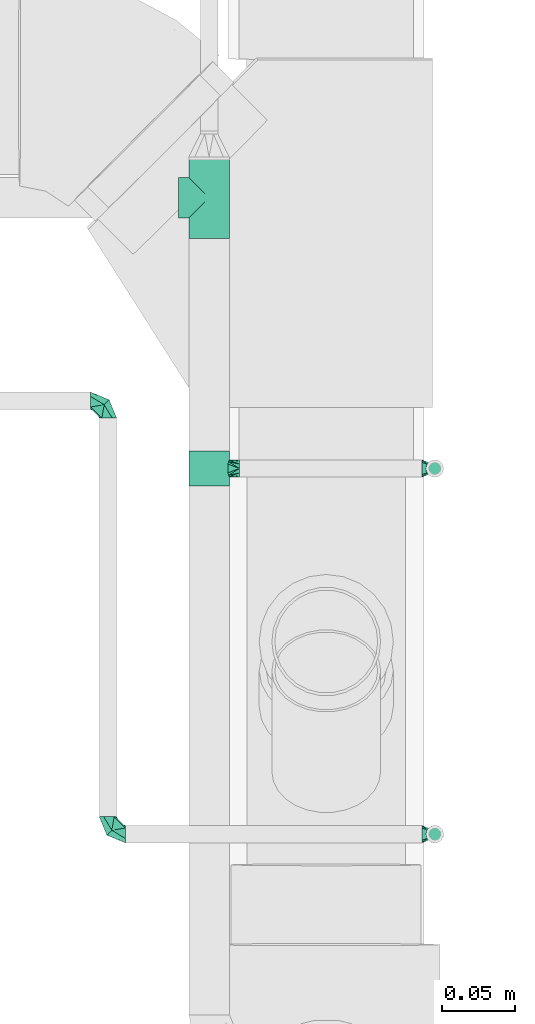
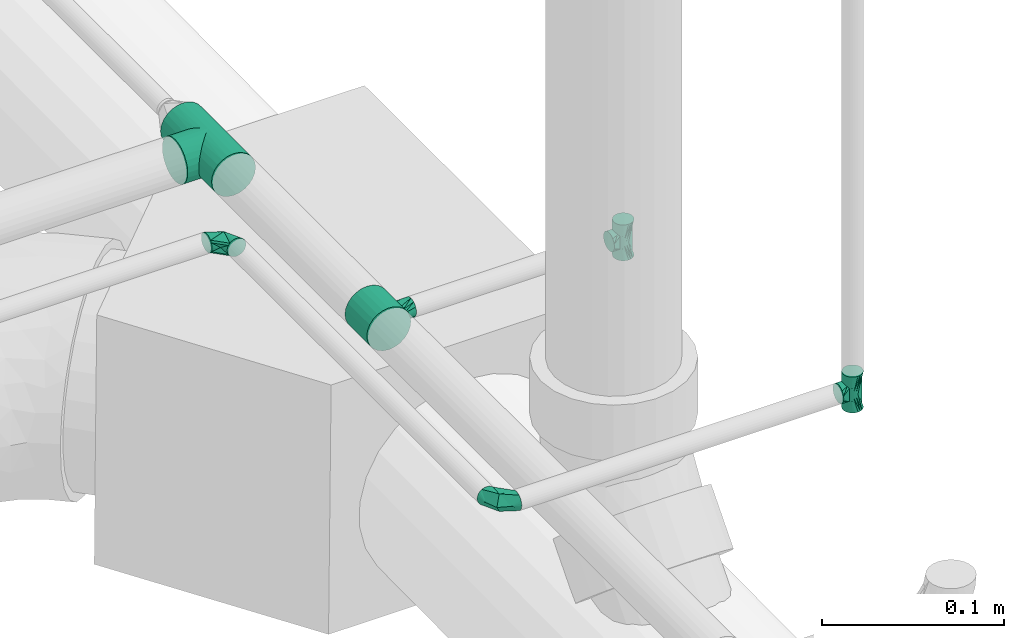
# One storey, part 74 of 108: 6 flow fittings.
"""IFC2X3 building model written with IfcOpenShell, lengths in millimetres."""

from ifc_helpers import new_model, entity, si_unit, converted_unit, derived_unit, direction, frame, origin_with_axes, place, context, subcontext, project, spatial, open_shell, surface_model, source, transform, mapped, type_object, element, save


model = new_model("IFC2X3")

# Units and contexts
model_context = context("Model", 3, precision=0.01, world=frame((0.0, 4.29681676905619e-09, 0.0)), true_north=direction((4.01073788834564e-13, 1.0)))
plan_context = context("Plan", 3, precision=0.01, world=frame((0.0, 4.29681676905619e-09, 0.0)), true_north=direction((4.01073788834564e-13, 1.0)))
body_context = subcontext(model_context, "Body", "Model", "MODEL_VIEW")
ifc_project = project(units=[converted_unit("PLANEANGLEUNIT", "DEGREE", entity("IfcPositiveLengthMeasure", 0.0174532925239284), si_unit("PLANEANGLEUNIT", "RADIAN"), dimensions=[0, 0, 0, 0, 0, 0, 0]), si_unit("AREAUNIT", "SQUARE_METRE"), si_unit("LENGTHUNIT", "METRE", prefix="MILLI"), si_unit("MASSUNIT", "GRAM", prefix="KILO"), si_unit("POWERUNIT", "WATT"), si_unit("PRESSUREUNIT", "PASCAL", prefix="KILO"), si_unit("FORCEUNIT", "NEWTON", prefix="KILO"), si_unit("ELECTRICVOLTAGEUNIT", "VOLT"), si_unit("ELECTRICCURRENTUNIT", "AMPERE"), si_unit("THERMODYNAMICTEMPERATUREUNIT", "DEGREE_CELSIUS"), si_unit("TIMEUNIT", "SECOND"), si_unit("VOLUMEUNIT", "CUBIC_METRE"), derived_unit("LINEARVELOCITYUNIT", [(si_unit("LENGTHUNIT", "METRE"), 1), (si_unit("TIMEUNIT", "SECOND"), -1)]), derived_unit("VOLUMETRICFLOWRATEUNIT", [(si_unit("VOLUMEUNIT", "CUBIC_METRE"), 1), (si_unit("TIMEUNIT", "SECOND"), -1)]), derived_unit("THERMALTRANSMITTANCEUNIT", [(si_unit("POWERUNIT", "WATT"), 1), (si_unit("THERMODYNAMICTEMPERATUREUNIT", "KELVIN"), -1), (si_unit("AREAUNIT", "SQUARE_METRE"), -1)]), derived_unit("SOUNDPRESSUREUNIT", [(si_unit("PRESSUREUNIT", "PASCAL"), 1)])], contexts=[model_context, plan_context])

# Site, building, storey
site_placement = place(None, frame((0.0, -4.29681676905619e-09, 0.0), z_axis=(0.0, 0.0, 1.0), x_axis=(1.0, 0.0, 0.0)))
site = spatial("IfcSite", under=ifc_project, at=site_placement, CompositionType="ELEMENT")
building_placement = place(site_placement, frame((0.0, 4.29681676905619e-09, 0.0), z_axis=(0.0, 0.0, 1.0), x_axis=(1.0, 0.0, 0.0)))
building = spatial("IfcBuilding", under=site, at=building_placement, Name="mc-building", CompositionType="ELEMENT")
storey_placement = place(building_placement, frame((0.0, 0.0, 210200.0), z_axis=(0.0, 0.0, 1.0), x_axis=(1.0, 0.0, 0.0)))
storey = spatial("IfcBuildingStorey", under=building, at=storey_placement, Name="Nivå F - 0,7 m", CompositionType="ELEMENT", Elevation=210200.0)

# Flow fittings
pipe_fitting_type_1 = type_object("IfcPipeFittingType", Name="magi_pipe_elbow_short_001", PredefinedType="BEND")
shared_shape_1 = source(origin_with_axes(), body_context, "Body", "SurfaceModel", [
    surface_model("IfcShellBasedSurfaceModel", [(-12.0, 0.0, -6.0), (-12.0, -5.19615, -3.0), (-12.0, 1.55291, -5.79555), (-12.0, 5.79555, -1.55291), (-12.0, -5.79555, -1.55291), (-12.0, -6.0, 0.0), (-12.0, -1.55291, 5.79555), (-12.0, 0.0, 6.0), (-12.0, -3.0, 5.19615), (-12.0, 3.0, -5.19615), (-12.0, 5.19615, -3.0), (-12.0, 4.24264, -4.24264), (-12.0, -3.0, -5.19615), (-12.0, -4.24264, -4.24264), (-12.0, -1.55291, -5.79555), (-12.0, 6.0, 0.0), (-12.0, -4.24264, 4.24264), (-12.0, 5.79555, 1.55291), (-12.0, 5.19615, 3.0), (-12.0, 4.24264, 4.24264), (-12.0, 1.55291, 5.79555), (-12.0, 3.0, 5.19615), (-12.0, -5.79555, 1.55291), (-12.0, -5.19615, 3.0), (-1.55291, 12.0, -5.79555), (5.19615, 12.0, -3.0), (0.0, 12.0, -6.0), (-5.79555, 12.0, -1.55291), (-3.0, 12.0, -5.19615), (-4.24264, 12.0, -4.24264), (-5.19615, 12.0, -3.0), (-1.55291, 12.0, 5.79555), (1.55291, 12.0, -5.79555), (4.24264, 12.0, -4.24264), (3.0, 12.0, -5.19615), (6.0, 12.0, 0.0), (5.79555, 12.0, -1.55291), (4.24264, 12.0, 4.24264), (-5.19615, 12.0, 3.0), (-5.79555, 12.0, 1.55291), (-4.24264, 12.0, 4.24264), (-3.0, 12.0, 5.19615), (5.19615, 12.0, 3.0), (5.79555, 12.0, 1.55291), (3.0, 12.0, 5.19615), (0.0, 12.0, 6.0), (1.55291, 12.0, 5.79555), (-6.0, 12.0, 0.0), (-2.67965, 2.67964, 5.88263), (-6.5981, -3.76246, 0.0), (0.72792, -0.72792, 0.0), (3.76246, 6.5981, 0.0), (-7.75736, 7.75736, 0.0), (-2.67964, 2.67964, -5.88263)], [open_shell([[[0, 1, 2]], [[3, 2, 1]], [[4, 5, 1]], [[6, 7, 8]], [[9, 2, 3]], [[3, 10, 11]], [[9, 3, 11]], [[12, 13, 14]], [[1, 14, 13]], [[0, 14, 1]], [[1, 5, 3]], [[5, 15, 3]], [[16, 17, 5]], [[18, 17, 19]], [[20, 21, 19]], [[17, 20, 19]], [[20, 17, 8]], [[5, 22, 23]], [[5, 23, 16]], [[17, 16, 8]], [[20, 8, 7]], [[17, 15, 5]], [[24, 25, 26]], [[27, 24, 28]], [[29, 30, 27]], [[29, 27, 28]], [[31, 25, 24]], [[32, 33, 34]], [[33, 32, 25]], [[25, 35, 36]], [[25, 32, 26]], [[25, 37, 35]], [[38, 24, 27]], [[27, 39, 38]], [[24, 38, 31]], [[40, 41, 31]], [[40, 31, 38]], [[37, 25, 31]], [[35, 42, 43]], [[37, 42, 35]], [[44, 45, 46]], [[44, 37, 31]], [[45, 44, 31]], [[27, 47, 39]], [[6, 48, 7]], [[23, 22, 49]], [[16, 23, 49]], [[22, 5, 49]], [[50, 51, 48]], [[8, 49, 48]], [[20, 7, 48]], [[8, 48, 6]], [[42, 51, 43]], [[16, 49, 8]], [[18, 19, 38]], [[48, 19, 21]], [[17, 18, 52]], [[52, 15, 17]], [[52, 18, 38]], [[21, 20, 48]], [[49, 50, 48]], [[44, 46, 48]], [[51, 44, 48]], [[46, 45, 48]], [[35, 43, 51]], [[44, 51, 37]], [[37, 51, 42]], [[38, 39, 52]], [[47, 52, 39]], [[41, 40, 48]], [[40, 19, 48]], [[38, 19, 40]], [[31, 41, 48]], [[45, 31, 48]], [[9, 53, 2]], [[2, 53, 0]], [[52, 10, 3]], [[50, 49, 53]], [[11, 29, 53]], [[1, 49, 4]], [[11, 10, 29]], [[9, 11, 53]], [[49, 5, 4]], [[1, 13, 49]], [[14, 53, 12]], [[49, 13, 12]], [[12, 53, 49]], [[0, 53, 14]], [[3, 15, 52]], [[52, 47, 27]], [[52, 27, 30]], [[29, 10, 30]], [[32, 53, 26]], [[53, 28, 24]], [[36, 35, 51]], [[53, 29, 28]], [[26, 53, 24]], [[53, 34, 51]], [[51, 34, 33]], [[25, 36, 51]], [[51, 50, 53]], [[51, 33, 25]], [[34, 53, 32]], [[30, 10, 52]]])]),
])
for number, where, z_axis, x_axis, name in (
    (1, (328756.00629, 463310.0, 3284.41390000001), (0.0, 0.0, 1.0), (0.0, 1.0, 0.0), "magi_pipe_elbow_short_001"),
    (2, (328756.00629, 463011.2286, 3284.41390000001), (0.0, 0.0, 1.0), (0.0, -1.0, 0.0), "magi_pipe_elbow_short_001"),
):
    element("IfcFlowFitting", number, at=place(storey_placement, frame(where, z_axis=z_axis, x_axis=x_axis)), inside=storey, type_object=pipe_fitting_type_1, Name=name, context=body_context, shape_type="MappedRepresentation", body=[
        mapped(shared_shape_1, transform((0.0, 0.0, 0.0), scale=1.0)),
    ])
pipe_fitting_type_2 = type_object("IfcPipeFittingType", Name="magi_pipe_tee_centric_90_001", PredefinedType="JUNCTION")
shared_shape_2 = source(origin_with_axes(), body_context, "Body", "SurfaceModel", [
    surface_model("IfcShellBasedSurfaceModel", [(-28.0, 7.0, -12.12436), (-28.0, 3.62347, -13.52296), (-28.0, 9.89949, -9.89949), (-28.0, -7.0, -12.12436), (-28.0, -9.89949, -9.89949), (-28.0, -3.62347, -13.52296), (-28.0, 0.0, -14.0), (-28.0, 13.52296, -3.62347), (-28.0, 12.12436, -7.0), (-28.0, -12.12436, -7.0), (-28.0, -13.52296, -3.62347), (-28.0, -14.0, 0.0), (-28.0, 14.0, 0.0), (-28.0, 12.12436, 7.0), (-28.0, 13.52296, 3.62347), (-28.0, 7.0, 12.12436), (-28.0, 3.62347, 13.52296), (-28.0, 9.89949, 9.89949), (-28.0, 0.0, 14.0), (-28.0, -13.52296, 3.62347), (-28.0, -12.12436, 7.0), (-28.0, -9.89949, 9.89949), (-28.0, -7.0, 12.12436), (-28.0, -3.62347, 13.52296), (28.0, 9.89949, -9.89949), (28.0, 0.0, -14.0), (28.0, 3.62347, -13.52296), (28.0, 7.0, -12.12436), (28.0, 12.12436, -7.0), (28.0, 13.52296, -3.62347), (28.0, -12.12436, -7.0), (28.0, -3.62347, -13.52296), (28.0, -9.89949, -9.89949), (28.0, -7.0, -12.12436), (28.0, -14.0, 0.0), (28.0, -13.52296, -3.62347), (28.0, 7.0, 12.12436), (28.0, 14.0, 0.0), (28.0, 13.52296, 3.62347), (28.0, 12.12436, 7.0), (28.0, 3.62347, 13.52296), (28.0, 9.89949, 9.89949), (28.0, 0.0, 14.0), (28.0, -12.12436, 7.0), (28.0, -13.52296, 3.62347), (28.0, -9.89949, 9.89949), (28.0, -3.62347, 13.52296), (28.0, -7.0, 12.12436), (13.49217, -13.49217, 3.73648), (14.0, -14.0, 0.0), (12.11708, -12.11708, 7.01259), (7.84674, -7.84674, 11.59434), (10.15905, -10.15905, 9.63294), (-14.0, -14.0, 0.0), (-13.49217, -13.49217, 3.73648), (-12.11708, -12.11708, 7.01259), (-10.15905, -10.15905, 9.63294), (-7.84674, -7.84674, 11.59434), (-5.32575, -5.32575, 12.94745), (5.32575, -5.32575, 12.94745), (2.68835, -2.68835, 13.73946), (0.0, 0.0, 14.0), (-2.68835, -2.68835, 13.73946), (2.68835, -2.68835, -13.73946), (0.0, 0.0, -14.0), (-2.68835, -2.68835, -13.73946), (-5.32575, -5.32575, -12.94745), (5.32575, -5.32575, -12.94745), (7.84674, -7.84674, -11.59434), (10.15905, -10.15905, -9.63294), (12.11708, -12.11708, -7.01259), (13.49217, -13.49217, -3.73648), (-7.84674, -7.84674, -11.59434), (-10.15905, -10.15905, -9.63294), (-13.49217, -13.49217, -3.73648), (-12.11708, -12.11708, -7.01259), (9.89949, -21.0, -9.89949), (0.0, -21.0, -14.0), (3.62347, -21.0, -13.52296), (7.0, -21.0, -12.12436), (12.12436, -21.0, -7.0), (13.52296, -21.0, -3.62347), (-12.12436, -21.0, -7.0), (-14.0, -21.0, 0.0), (-3.62347, -21.0, -13.52296), (-9.89949, -21.0, -9.89949), (-7.0, -21.0, -12.12436), (-13.52296, -21.0, -3.62347), (-13.52296, -21.0, 3.62347), (14.0, -21.0, 0.0), (13.52296, -21.0, 3.62347), (12.12436, -21.0, 7.0), (-9.89949, -21.0, 9.89949), (7.0, -21.0, 12.12436), (0.0, -21.0, 14.0), (9.89949, -21.0, 9.89949), (3.62347, -21.0, 13.52296), (-12.12436, -21.0, 7.0), (-3.62347, -21.0, 13.52296), (-7.0, -21.0, 12.12436)], [open_shell([[[0, 1, 2]], [[3, 4, 5]], [[1, 6, 2]], [[6, 7, 8]], [[2, 6, 8]], [[9, 7, 6]], [[9, 5, 4]], [[10, 11, 9]], [[6, 5, 9]], [[9, 11, 7]], [[11, 12, 7]], [[13, 14, 12]], [[15, 13, 12]], [[15, 11, 16]], [[17, 13, 15]], [[11, 18, 16]], [[19, 20, 11]], [[20, 21, 11]], [[22, 23, 21]], [[18, 21, 23]], [[11, 21, 18]], [[11, 15, 12]], [[24, 25, 26]], [[24, 26, 27]], [[28, 29, 25]], [[28, 25, 24]], [[25, 29, 30]], [[31, 32, 33]], [[32, 31, 30]], [[30, 34, 35]], [[30, 31, 25]], [[30, 36, 34]], [[30, 29, 37]], [[37, 38, 39]], [[39, 36, 30]], [[40, 34, 36]], [[36, 39, 41]], [[34, 40, 42]], [[34, 43, 44]], [[34, 45, 43]], [[45, 46, 47]], [[46, 45, 42]], [[42, 45, 34]], [[39, 30, 37]], [[44, 43, 48]], [[34, 44, 49]], [[49, 44, 48]], [[43, 50, 48]], [[45, 47, 51]], [[50, 43, 52]], [[51, 52, 45]], [[52, 43, 45]], [[53, 54, 19]], [[53, 19, 11]], [[19, 54, 20]], [[54, 55, 20]], [[56, 57, 21]], [[21, 20, 56]], [[21, 57, 22]], [[56, 20, 55]], [[22, 57, 58]], [[51, 47, 59]], [[60, 42, 61]], [[59, 46, 60]], [[46, 59, 47]], [[60, 46, 42]], [[61, 42, 40]], [[39, 38, 14]], [[17, 36, 41]], [[13, 41, 39]], [[40, 36, 15]], [[12, 38, 37]], [[62, 61, 18]], [[62, 23, 58]], [[23, 62, 18]], [[58, 23, 22]], [[61, 16, 18]], [[40, 16, 61]], [[15, 16, 40]], [[15, 36, 17]], [[13, 17, 41]], [[14, 13, 39]], [[38, 12, 14]], [[8, 28, 24]], [[12, 37, 29]], [[24, 27, 0]], [[28, 7, 29]], [[25, 31, 63]], [[25, 64, 26]], [[64, 25, 63]], [[27, 26, 1]], [[64, 1, 26]], [[8, 24, 2]], [[7, 28, 8]], [[24, 0, 2]], [[7, 12, 29]], [[65, 66, 5]], [[6, 1, 64]], [[6, 65, 5]], [[66, 3, 5]], [[1, 0, 27]], [[6, 64, 65]], [[63, 31, 67]], [[33, 32, 68]], [[69, 68, 32]], [[30, 70, 69]], [[69, 32, 30]], [[33, 68, 67]], [[35, 34, 49]], [[35, 71, 30]], [[71, 35, 49]], [[30, 71, 70]], [[72, 3, 66]], [[72, 4, 3]], [[4, 72, 73]], [[4, 73, 9]], [[74, 53, 10]], [[75, 74, 9]], [[74, 10, 9]], [[10, 53, 11]], [[75, 9, 73]], [[33, 67, 31]], [[76, 77, 78]], [[76, 78, 79]], [[76, 80, 81]], [[77, 76, 82]], [[83, 76, 81]], [[84, 85, 86]], [[85, 84, 82]], [[82, 83, 87]], [[82, 84, 77]], [[76, 83, 82]], [[81, 88, 83]], [[89, 90, 91]], [[92, 89, 91]], [[91, 93, 94]], [[93, 91, 95]], [[96, 94, 93]], [[88, 92, 97]], [[88, 89, 92]], [[92, 98, 99]], [[98, 92, 94]], [[91, 94, 92]], [[89, 88, 81]], [[88, 53, 83]], [[97, 54, 88]], [[57, 92, 99]], [[99, 98, 58]], [[97, 92, 56]], [[94, 62, 98]], [[54, 53, 88]], [[55, 54, 97]], [[57, 56, 92]], [[62, 58, 98]], [[57, 99, 58]], [[55, 97, 56]], [[94, 61, 62]], [[51, 93, 95]], [[59, 96, 93]], [[90, 89, 49]], [[95, 91, 52]], [[90, 48, 91]], [[48, 90, 49]], [[61, 94, 60]], [[59, 60, 96]], [[48, 50, 91]], [[52, 51, 95]], [[50, 52, 91]], [[59, 93, 51]], [[60, 94, 96]], [[81, 49, 89]], [[80, 71, 81]], [[68, 76, 79]], [[79, 78, 67]], [[80, 76, 69]], [[77, 63, 78]], [[71, 49, 81]], [[70, 71, 80]], [[68, 69, 76]], [[63, 67, 78]], [[68, 79, 67]], [[70, 80, 69]], [[77, 64, 63]], [[86, 66, 84]], [[85, 72, 86]], [[87, 83, 53]], [[85, 82, 73]], [[87, 74, 82]], [[74, 87, 53]], [[64, 77, 65]], [[66, 65, 84]], [[74, 75, 82]], [[73, 72, 85]], [[75, 73, 82]], [[66, 86, 72]], [[65, 77, 84]]])]),
])
flow_fitting_1_placement = place(storey_placement, frame((328825.72018, 463450.0, 3233.60013000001), z_axis=(0.0, 0.0, -1.0), x_axis=(0.0, 1.0, 0.0)))
element("IfcFlowFitting", 3, at=flow_fitting_1_placement, inside=storey, type_object=pipe_fitting_type_2, Name="magi_pipe_tee_centric_90_001", context=body_context, shape_type="MappedRepresentation", body=[
    mapped(shared_shape_2, transform((0.0, 0.0, 0.0), scale=1.0)),
])
shared_shape_3 = source(origin_with_axes(), body_context, "Body", "SurfaceModel", [
    surface_model("IfcShellBasedSurfaceModel", [(-12.0, 3.62347, -13.52296), (-12.0, 0.0, -14.0), (-12.0, 9.89949, -9.89949), (-12.0, 7.0, -12.12436), (-12.0, 13.52296, -3.62347), (-12.0, 12.12436, -7.0), (-12.0, -12.12436, -7.0), (-12.0, -7.0, -12.12436), (-12.0, -9.89949, -9.89949), (-12.0, -3.62347, -13.52296), (-12.0, -13.52296, -3.62347), (-12.0, -14.0, 0.0), (-12.0, 14.0, 0.0), (-12.0, 12.12436, 7.0), (-12.0, 13.52296, 3.62347), (-12.0, 7.0, 12.12436), (-12.0, 3.62347, 13.52296), (-12.0, 9.89949, 9.89949), (-12.0, 0.0, 14.0), (-12.0, -13.52296, 3.62347), (-12.0, -12.12436, 7.0), (-12.0, -9.89949, 9.89949), (-12.0, -7.0, 12.12436), (-12.0, -3.62347, 13.52296), (12.0, 9.89949, -9.89949), (12.0, 0.0, -14.0), (12.0, 3.62347, -13.52296), (12.0, 7.0, -12.12436), (12.0, 12.12436, -7.0), (12.0, 13.52296, -3.62347), (12.0, -12.12436, -7.0), (12.0, -3.62347, -13.52296), (12.0, -9.89949, -9.89949), (12.0, -7.0, -12.12436), (12.0, -14.0, 0.0), (12.0, -13.52296, -3.62347), (12.0, 7.0, 12.12436), (12.0, 14.0, 0.0), (12.0, 13.52296, 3.62347), (12.0, 12.12436, 7.0), (12.0, 3.62347, 13.52296), (12.0, 9.89949, 9.89949), (12.0, 0.0, 14.0), (12.0, -12.12436, 7.0), (12.0, -13.52296, 3.62347), (12.0, -9.89949, 9.89949), (12.0, -3.62347, 13.52296), (12.0, -7.0, 12.12436), (12.0, -13.76148, 1.81173), (5.63156, -13.8461, 2.07016), (6.0, -14.0, 0.0), (4.5901, -13.45619, 3.86406), (1.05264, -12.69283, 5.90694), (3.01298, -13.003, 5.18864), (-5.63173, -13.84617, 2.06969), (-12.0, -13.76148, 1.81173), (-6.0, -14.0, 0.0), (-4.59169, -13.45673, 3.86217), (-3.01349, -13.00312, 5.18834), (-1.05429, -12.69297, 5.90665), (5.63156, -13.8461, -2.07016), (12.0, -13.76148, -1.81173), (-12.0, -13.76148, -1.81173), (-5.63173, -13.84617, -2.06969), (3.01298, -13.003, -5.18864), (1.05264, -12.69283, -5.90694), (4.5901, -13.45619, -3.86406), (-1.05429, -12.69297, -5.90665), (-3.01349, -13.00312, -5.18834), (-4.59169, -13.45673, -3.86217), (1.55291, -21.0, -5.79555), (-6.0, -21.0, 0.0), (0.0, -21.0, -6.0), (5.19615, -21.0, -3.0), (3.0, -21.0, -5.19615), (5.79555, -21.0, -1.55291), (4.24264, -21.0, -4.24264), (-4.24264, -21.0, 4.24264), (-3.0, -21.0, -5.19615), (-5.19615, -21.0, -3.0), (-4.24264, -21.0, -4.24264), (-1.55291, -21.0, -5.79555), (-5.79555, -21.0, -1.55291), (5.19615, -21.0, 3.0), (6.0, -21.0, 0.0), (5.79555, -21.0, 1.55291), (-3.0, -21.0, 5.19615), (3.0, -21.0, 5.19615), (4.24264, -21.0, 4.24264), (0.0, -21.0, 6.0), (1.55291, -21.0, 5.79555), (-5.79555, -21.0, 1.55291), (-5.19615, -21.0, 3.0), (-1.55291, -21.0, 5.79555)], [open_shell([[[0, 1, 2]], [[3, 0, 2]], [[1, 4, 5]], [[2, 1, 5]], [[6, 4, 1]], [[7, 8, 9]], [[6, 9, 8]], [[10, 11, 6]], [[1, 9, 6]], [[6, 11, 4]], [[11, 12, 4]], [[13, 14, 12]], [[15, 13, 12]], [[15, 11, 16]], [[17, 13, 15]], [[11, 18, 16]], [[19, 20, 11]], [[20, 21, 11]], [[22, 23, 21]], [[18, 21, 23]], [[11, 21, 18]], [[11, 15, 12]], [[24, 25, 26]], [[24, 26, 27]], [[28, 29, 25]], [[28, 25, 24]], [[25, 29, 30]], [[31, 32, 33]], [[32, 31, 30]], [[30, 34, 35]], [[30, 31, 25]], [[30, 36, 34]], [[30, 29, 37]], [[37, 38, 39]], [[39, 36, 30]], [[40, 34, 36]], [[36, 39, 41]], [[34, 40, 42]], [[34, 43, 44]], [[34, 45, 43]], [[45, 46, 47]], [[46, 45, 42]], [[42, 45, 34]], [[39, 30, 37]], [[48, 44, 49]], [[50, 34, 48]], [[44, 51, 49]], [[52, 43, 20]], [[51, 44, 53]], [[52, 53, 43]], [[43, 45, 20]], [[53, 44, 43]], [[54, 55, 56]], [[11, 56, 55]], [[54, 57, 19]], [[58, 59, 20]], [[20, 19, 58]], [[59, 52, 20]], [[58, 19, 57]], [[45, 21, 20]], [[45, 47, 21]], [[23, 46, 42]], [[50, 48, 49]], [[42, 40, 16]], [[47, 46, 22]], [[39, 38, 14]], [[17, 36, 41]], [[13, 41, 39]], [[40, 36, 15]], [[37, 12, 38]], [[54, 19, 55]], [[23, 42, 18]], [[16, 18, 42]], [[23, 22, 46]], [[40, 15, 16]], [[15, 36, 17]], [[13, 17, 41]], [[14, 13, 39]], [[38, 12, 14]], [[47, 22, 21]], [[29, 12, 37]], [[4, 29, 28]], [[28, 24, 5]], [[60, 35, 61]], [[9, 25, 31]], [[26, 25, 1]], [[31, 33, 7]], [[24, 27, 2]], [[3, 27, 26]], [[2, 5, 24]], [[5, 4, 28]], [[4, 12, 29]], [[56, 62, 63]], [[0, 3, 26]], [[9, 1, 25]], [[31, 7, 9]], [[3, 2, 27]], [[1, 0, 26]], [[33, 8, 7]], [[6, 32, 30]], [[64, 65, 30]], [[30, 35, 64]], [[6, 30, 65]], [[34, 50, 61]], [[60, 66, 35]], [[60, 61, 50]], [[35, 66, 64]], [[67, 68, 6]], [[8, 32, 6]], [[68, 10, 6]], [[6, 65, 67]], [[69, 63, 10]], [[63, 62, 10]], [[62, 56, 11]], [[69, 10, 68]], [[32, 8, 33]], [[70, 71, 72]], [[73, 70, 74]], [[73, 75, 70]], [[73, 74, 76]], [[77, 71, 70]], [[78, 79, 80]], [[79, 78, 81]], [[79, 71, 82]], [[79, 81, 72]], [[72, 71, 79]], [[70, 75, 83]], [[84, 85, 83]], [[83, 77, 70]], [[86, 83, 87]], [[87, 83, 88]], [[89, 87, 90]], [[91, 77, 92]], [[71, 77, 91]], [[86, 89, 93]], [[86, 77, 83]], [[89, 86, 87]], [[83, 75, 84]], [[56, 71, 91]], [[54, 92, 77]], [[91, 92, 56]], [[77, 86, 54]], [[56, 92, 54]], [[54, 86, 57]], [[59, 58, 53]], [[57, 89, 58]], [[93, 89, 57]], [[93, 57, 86]], [[90, 51, 89]], [[87, 51, 90]], [[49, 88, 83]], [[87, 88, 49]], [[50, 83, 85]], [[89, 51, 53]], [[52, 59, 53]], [[83, 50, 49]], [[49, 51, 87]], [[85, 84, 50]], [[53, 58, 89]], [[50, 84, 75]], [[60, 73, 76]], [[75, 73, 50]], [[76, 74, 60]], [[50, 73, 60]], [[60, 74, 66]], [[65, 64, 67]], [[66, 72, 64]], [[70, 72, 66]], [[70, 66, 74]], [[81, 69, 72]], [[78, 69, 81]], [[63, 80, 79]], [[63, 78, 80]], [[56, 79, 82]], [[72, 69, 68]], [[67, 64, 68]], [[79, 56, 63]], [[63, 69, 78]], [[82, 71, 56]], [[68, 64, 72]]])]),
])
flow_fitting_2_placement = place(storey_placement, frame((328825.72018, 463263.33797, 3233.60008999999), z_axis=(0.0, 0.0, 1.0), x_axis=(0.0, 1.0, 0.0)))
element("IfcFlowFitting", 4, at=flow_fitting_2_placement, inside=storey, type_object=pipe_fitting_type_2, Name="magi_pipe_tee_centric_90_001", context=body_context, shape_type="MappedRepresentation", body=[
    mapped(shared_shape_3, transform((0.0, 0.0, 0.0), scale=1.0)),
])
shared_shape_4 = source(origin_with_axes(), body_context, "Body", "SurfaceModel", [
    surface_model("IfcShellBasedSurfaceModel", [(-12.0, 0.0, -6.0), (-12.0, -5.19615, -3.0), (-12.0, 1.55291, -5.79555), (-12.0, 3.0, -5.19615), (-12.0, 4.24264, -4.24264), (-12.0, 5.79555, -1.55291), (-12.0, 5.19615, -3.0), (-12.0, -4.24264, -4.24264), (-12.0, -3.0, -5.19615), (-12.0, -1.55291, -5.79555), (-12.0, -5.79555, -1.55291), (-12.0, -6.0, 0.0), (-12.0, -5.19615, 3.0), (-12.0, 5.19615, 3.0), (-12.0, 5.79555, 1.55291), (-12.0, 6.0, 0.0), (-12.0, 3.0, 5.19615), (-12.0, 4.24264, 4.24264), (-12.0, 1.55291, 5.79555), (-12.0, 0.0, 6.0), (-12.0, -4.24264, 4.24264), (-12.0, -3.0, 5.19615), (-12.0, -5.79555, 1.55291), (-12.0, -1.55291, 5.79555), (12.0, 1.55291, -5.79555), (12.0, -5.19615, -3.0), (12.0, 0.0, -6.0), (12.0, 4.24264, -4.24264), (12.0, 3.0, -5.19615), (12.0, 5.19615, -3.0), (12.0, 5.79555, -1.55291), (12.0, 5.19615, 3.0), (12.0, -6.0, 0.0), (12.0, -3.0, -5.19615), (12.0, -4.24264, -4.24264), (12.0, -1.55291, -5.79555), (12.0, -5.79555, -1.55291), (12.0, 6.0, 0.0), (12.0, 5.79555, 1.55291), (12.0, -5.19615, 3.0), (12.0, 3.0, 5.19615), (12.0, 4.24264, 4.24264), (12.0, 0.0, 6.0), (12.0, 1.55291, 5.79555), (12.0, -3.0, 5.19615), (12.0, -4.24264, 4.24264), (12.0, -5.79555, 1.55291), (12.0, -1.55291, 5.79555), (6.0, -6.0, 0.0), (5.78236, -5.78236, 1.60135), (5.19303, -5.19303, 3.0054), (4.35388, -4.35388, 4.1284), (3.36289, -3.36289, 4.969), (-6.0, -6.0, 0.0), (-5.78236, -5.78236, 1.60135), (-5.19303, -5.19303, 3.0054), (-4.35388, -4.35388, 4.1284), (-3.36289, -3.36289, 4.969), (2.28247, -2.28247, 5.54891), (1.15215, -1.15215, 5.88834), (0.0, 0.0, 6.0), (-2.28247, -2.28247, 5.54891), (-1.15215, -1.15215, 5.88834), (0.0, 0.0, -6.0), (2.28247, -2.28247, -5.54891), (1.15215, -1.15215, -5.88834), (3.36289, -3.36289, -4.969), (-1.15215, -1.15215, -5.88834), (-2.28247, -2.28247, -5.54891), (-3.36289, -3.36289, -4.969), (4.35388, -4.35388, -4.1284), (5.19303, -5.19303, -3.0054), (5.78236, -5.78236, -1.60135), (-4.35388, -4.35388, -4.1284), (-5.19303, -5.19303, -3.0054), (-5.78236, -5.78236, -1.60135), (1.55291, -9.0, -5.79555), (-6.0, -9.0, 0.0), (0.0, -9.0, -6.0), (5.19615, -9.0, -3.0), (3.0, -9.0, -5.19615), (5.79555, -9.0, -1.55291), (4.24264, -9.0, -4.24264), (-4.24264, -9.0, 4.24264), (-3.0, -9.0, -5.19615), (-5.19615, -9.0, -3.0), (-4.24264, -9.0, -4.24264), (-1.55291, -9.0, -5.79555), (-5.79555, -9.0, -1.55291), (5.19615, -9.0, 3.0), (6.0, -9.0, 0.0), (5.79555, -9.0, 1.55291), (-3.0, -9.0, 5.19615), (3.0, -9.0, 5.19615), (4.24264, -9.0, 4.24264), (0.0, -9.0, 6.0), (1.55291, -9.0, 5.79555), (-5.79555, -9.0, 1.55291), (-5.19615, -9.0, 3.0), (-1.55291, -9.0, 5.79555)], [open_shell([[[0, 1, 2]], [[3, 2, 4]], [[2, 5, 6]], [[4, 2, 6]], [[5, 2, 1]], [[7, 1, 8]], [[0, 9, 8]], [[10, 11, 1]], [[1, 0, 8]], [[11, 12, 1]], [[12, 5, 1]], [[13, 14, 15]], [[5, 12, 13]], [[16, 13, 12]], [[17, 13, 16]], [[18, 16, 19]], [[20, 21, 12]], [[12, 11, 22]], [[23, 19, 21]], [[16, 12, 21]], [[16, 21, 19]], [[15, 5, 13]], [[24, 25, 26]], [[27, 24, 28]], [[29, 30, 24]], [[29, 24, 27]], [[31, 32, 24]], [[33, 25, 34]], [[33, 35, 26]], [[25, 32, 36]], [[33, 26, 25]], [[24, 32, 25]], [[24, 30, 37]], [[37, 38, 31]], [[31, 39, 32]], [[39, 31, 40]], [[40, 31, 41]], [[42, 40, 43]], [[39, 44, 45]], [[46, 32, 39]], [[44, 42, 47]], [[44, 39, 40]], [[42, 44, 40]], [[31, 24, 37]], [[32, 46, 48]], [[46, 49, 48]], [[49, 46, 39]], [[49, 39, 50]], [[45, 44, 51]], [[51, 50, 45]], [[52, 51, 44]], [[45, 50, 39]], [[53, 54, 22]], [[53, 22, 11]], [[22, 54, 12]], [[54, 55, 12]], [[56, 57, 21]], [[56, 20, 55]], [[20, 56, 21]], [[55, 20, 12]], [[21, 57, 23]], [[52, 44, 47]], [[42, 58, 52]], [[58, 43, 59]], [[43, 58, 42]], [[59, 43, 40]], [[42, 52, 47]], [[40, 41, 60]], [[60, 31, 38]], [[31, 60, 41]], [[40, 60, 59]], [[60, 38, 37]], [[18, 61, 62]], [[19, 23, 57]], [[18, 19, 61]], [[19, 57, 61]], [[62, 60, 16]], [[60, 14, 13]], [[13, 17, 60]], [[16, 18, 62]], [[60, 17, 16]], [[14, 60, 15]], [[60, 37, 15]], [[30, 63, 37]], [[27, 63, 29]], [[63, 30, 29]], [[63, 27, 28]], [[24, 26, 64]], [[24, 64, 65]], [[66, 64, 26]], [[66, 26, 35]], [[24, 65, 28]], [[63, 28, 65]], [[63, 3, 4]], [[5, 63, 6]], [[4, 6, 63]], [[63, 5, 15]], [[67, 2, 3]], [[2, 68, 0]], [[9, 0, 69]], [[67, 68, 2]], [[67, 3, 63]], [[15, 37, 63]], [[33, 34, 70]], [[70, 66, 33]], [[71, 70, 34]], [[34, 25, 71]], [[25, 36, 72]], [[36, 48, 72]], [[48, 36, 32]], [[25, 72, 71]], [[69, 8, 9]], [[8, 73, 7]], [[73, 8, 69]], [[7, 73, 74]], [[69, 0, 68]], [[75, 53, 10]], [[74, 75, 1]], [[75, 10, 1]], [[10, 53, 11]], [[74, 1, 7]], [[66, 35, 33]], [[76, 77, 78]], [[79, 76, 80]], [[79, 81, 76]], [[79, 80, 82]], [[83, 77, 76]], [[84, 85, 86]], [[85, 84, 87]], [[85, 77, 88]], [[85, 87, 78]], [[78, 77, 85]], [[76, 81, 89]], [[90, 91, 89]], [[89, 83, 76]], [[92, 89, 93]], [[93, 89, 94]], [[95, 93, 96]], [[97, 83, 98]], [[77, 83, 97]], [[92, 95, 99]], [[92, 83, 89]], [[95, 92, 93]], [[89, 81, 90]], [[97, 53, 77]], [[98, 54, 97]], [[55, 83, 92]], [[92, 99, 55]], [[98, 83, 54]], [[95, 56, 99]], [[54, 53, 97]], [[55, 54, 83]], [[51, 57, 56]], [[58, 62, 61]], [[61, 57, 52]], [[55, 99, 56]], [[95, 51, 56]], [[93, 50, 96]], [[94, 50, 93]], [[49, 89, 91]], [[90, 48, 91]], [[94, 89, 49]], [[49, 91, 48]], [[60, 62, 59]], [[59, 62, 58]], [[49, 50, 94]], [[52, 57, 51]], [[50, 51, 96]], [[61, 52, 58]], [[51, 95, 96]], [[81, 48, 90]], [[79, 72, 81]], [[71, 82, 80]], [[80, 76, 71]], [[79, 82, 72]], [[78, 70, 76]], [[72, 48, 81]], [[71, 72, 82]], [[73, 66, 70]], [[68, 65, 64]], [[64, 66, 69]], [[71, 76, 70]], [[78, 73, 70]], [[84, 74, 87]], [[86, 74, 84]], [[75, 85, 88]], [[77, 53, 88]], [[86, 85, 75]], [[75, 88, 53]], [[63, 65, 67]], [[67, 65, 68]], [[75, 74, 86]], [[69, 66, 73]], [[74, 73, 87]], [[64, 69, 68]], [[73, 78, 87]]])]),
])
for number, where, z_axis, x_axis, name in (
    (5, (328981.34469, 463011.2286, 3284.41390000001), (0.0, 1.0, 0.0), (0.0, 0.0, 1.0), "magi_pipe_tee_centric_90_001"),
    (6, (328981.34469, 463263.33797, 3233.60008999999), (0.0, 1.0, 0.0), (0.0, 0.0, 1.0), "magi_pipe_tee_centric_90_001"),
):
    element("IfcFlowFitting", number, at=place(storey_placement, frame(where, z_axis=z_axis, x_axis=x_axis)), inside=storey, type_object=pipe_fitting_type_2, Name=name, context=body_context, shape_type="MappedRepresentation", body=[
        mapped(shared_shape_4, transform((0.0, 0.0, 0.0), scale=1.0)),
    ])

save(model, "model.ifc")
